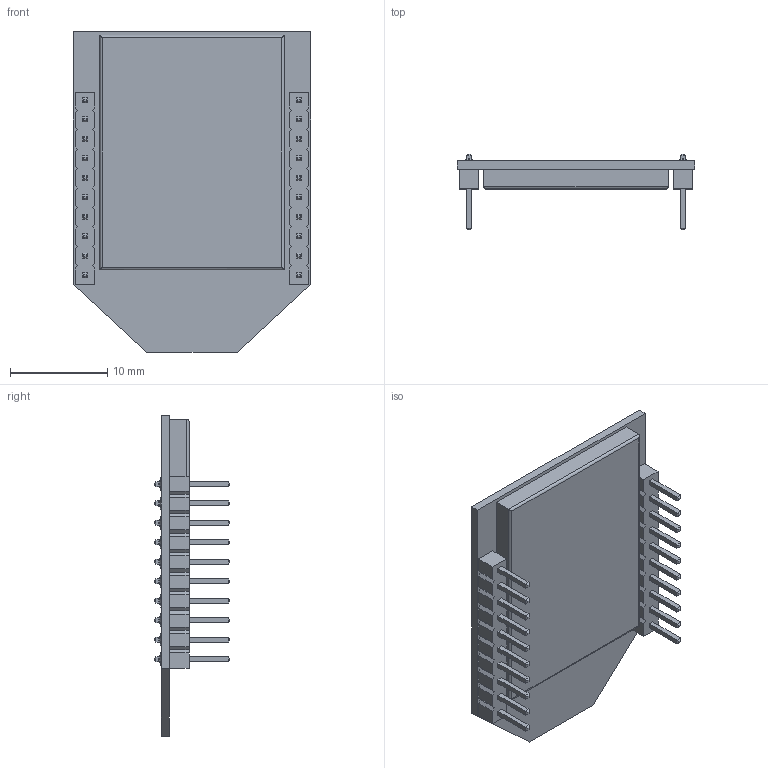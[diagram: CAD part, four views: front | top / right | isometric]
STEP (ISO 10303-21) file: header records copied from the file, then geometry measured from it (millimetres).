
FILE_DESCRIPTION (( 'STEP AP214' ), '1' );
FILE_NAME ('XBee Pro PCB Antenna.STEP', '2016-04-07T15:19:05', ( '' ), ( '' ), 'SwSTEP 2.0', 'SolidWorks 2015', '' );
FILE_SCHEMA (( 'AUTOMOTIVE_DESIGN' ));
Length unit declared in the file: millimetre
Products named in the file (1): XBee Pro PCB Antenna
Bounding box: 24.38 x 7.75 x 32.94 mm (x, y, z)
Volume: 1750.1 mm3; surface area: 2137 mm2
Topology: 1 solids, 1 shells, 1364 faces, 3536 edges, 2196 vertices
Faces by surface type: plane 858, bspline 462, torus 40, cylinder 4
Entity records: 65358 total; most frequent: CARTESIAN_POINT 21275, ORIENTED_EDGE 6912, DIRECTION 4454, EDGE_CURVE 3456, VERTEX_POINT 2196, LINE 2168, VECTOR 2168, EDGE_LOOP 1466
